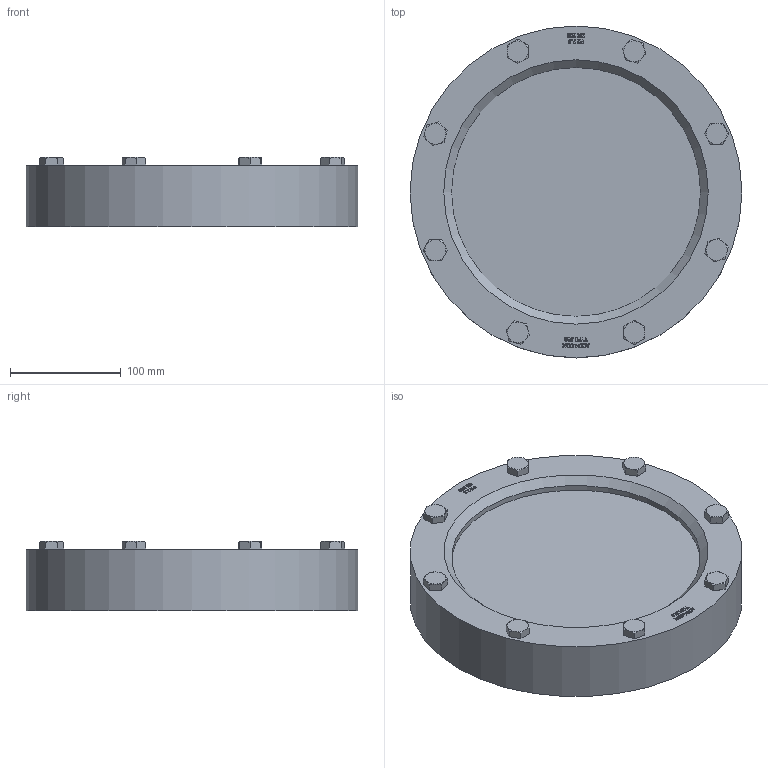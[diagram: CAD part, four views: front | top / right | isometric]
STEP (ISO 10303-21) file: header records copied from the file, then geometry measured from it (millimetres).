
FILE_DESCRIPTION(/* description */ (''),/* implementation_level */ '2;1');
FILE_NAME(/* name */ 'W:\Konstruktion_ACI\318\_STEP\ACI-318-200.stp',/* time_stamp */ '2022-03-02T18:04:55+01:00',/* author */ ('Travnicek'),/* organization */ (''),/* preprocessor_version */ 'ST-DEVELOPER v16.1',/* originating_system */ 'Autodesk Inventor 2016',/* authorisation */ '');
FILE_SCHEMA (('AUTOMOTIVE_DESIGN { 1 0 10303 214 3 1 1 }'));
Length unit declared in the file: centimetre
Products named in the file (1): ACI-318-200.stp
Bounding box: 300 x 300 x 62.5 mm (x, y, z)
Volume: 2626373.1 mm3; surface area: 213765.7 mm2
Topology: 1 solids, 1 shells, 526 faces, 1361 edges, 891 vertices
Faces by surface type: plane 286, bspline 179, cone 50, cylinder 11
Full cylindrical faces by diameter (mm): 17.2 x8, 225 x2, 300 x1
Entity records: 17178 total; most frequent: CARTESIAN_POINT 5283, ORIENTED_EDGE 2694, DIRECTION 1661, EDGE_CURVE 1347, VERTEX_POINT 890, LINE 821, VECTOR 821, EDGE_LOOP 593
